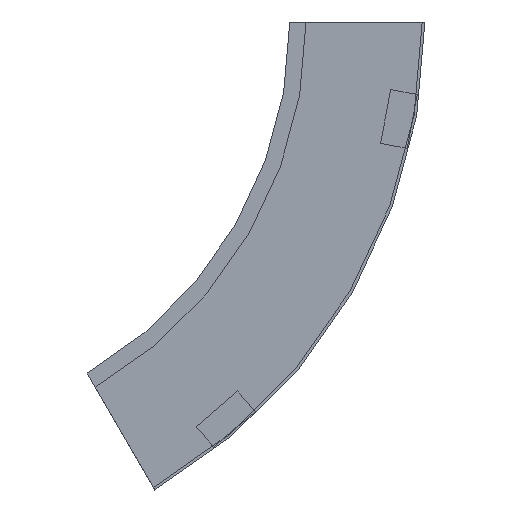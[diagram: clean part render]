
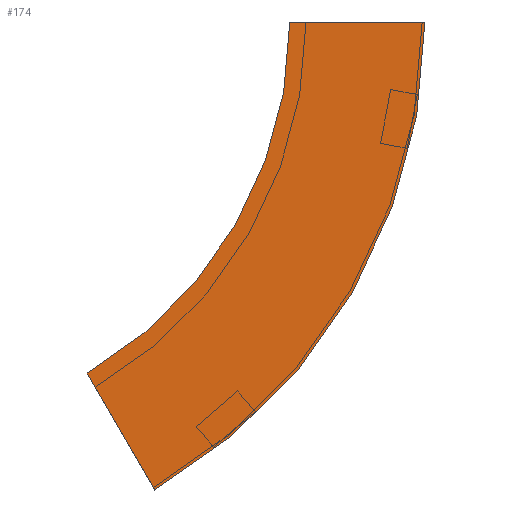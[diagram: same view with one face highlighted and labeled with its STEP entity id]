
A CAD part, left-side view. The second image highlights one B-rep face of the part: STEP entity #174.
In plain terms, the highlighted planar face has unit normal (-1, 0, 0) as drawn and (1, 0, 0) by its records, which use the part's own axes.
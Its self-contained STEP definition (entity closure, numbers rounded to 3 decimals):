
#37 = VECTOR ( 'NONE', #515, 1000. ) ;
#40 = CARTESIAN_POINT ( 'NONE',  ( 0., 0., 0. ) ) ;
#69 = CARTESIAN_POINT ( 'NONE',  ( 0., -100., 0. ) ) ;
#70 = EDGE_CURVE ( 'NONE', #130, #105, #488, .T. ) ;
#103 = VECTOR ( 'NONE', #334, 1000. ) ;
#105 = VERTEX_POINT ( 'NONE', #506 ) ;
#111 = DIRECTION ( 'NONE',  ( -1., 0., 0. ) ) ;
#122 = EDGE_CURVE ( 'NONE', #105, #301, #236, .T. ) ;
#130 = VERTEX_POINT ( 'NONE', #69 ) ;
#133 = EDGE_CURVE ( 'NONE', #130, #226, #338, .T. ) ;
#160 = CARTESIAN_POINT ( 'NONE',  ( 0., 300., 0. ) ) ;
#162 = DIRECTION ( 'NONE',  ( 0., -1., 0. ) ) ;
#164 = CARTESIAN_POINT ( 'NONE',  ( 0., 100., -346.41 ) ) ;
#174 = ADVANCED_FACE ( 'NONE', ( #558 ), #332, .F. ) ;
#202 = ORIENTED_EDGE ( 'NONE', *, *, #133, .F. ) ;
#203 = DIRECTION ( 'NONE',  ( 1., 0., 0. ) ) ;
#226 = VERTEX_POINT ( 'NONE', #40 ) ;
#236 = LINE ( 'NONE', #164, #103 ) ;
#241 = AXIS2_PLACEMENT_3D ( 'NONE', #256, #531, #443 ) ;
#256 = CARTESIAN_POINT ( 'NONE',  ( 0., 300., 0. ) ) ;
#284 = DIRECTION ( 'NONE',  ( 0., 0., 1. ) ) ;
#301 = VERTEX_POINT ( 'NONE', #364 ) ;
#307 = AXIS2_PLACEMENT_3D ( 'NONE', #160, #203, #162 ) ;
#322 = EDGE_LOOP ( 'NONE', ( #545, #202, #341, #477 ) ) ;
#332 = PLANE ( 'NONE',  #427 ) ;
#334 = DIRECTION ( 'NONE',  ( 0., 0.5, 0.866 ) ) ;
#338 = LINE ( 'NONE', #555, #37 ) ;
#341 = ORIENTED_EDGE ( 'NONE', *, *, #70, .T. ) ;
#364 = CARTESIAN_POINT ( 'NONE',  ( 0., 150., -259.808 ) ) ;
#427 = AXIS2_PLACEMENT_3D ( 'NONE', #509, #111, #284 ) ;
#443 = DIRECTION ( 'NONE',  ( 0., -1., 0. ) ) ;
#477 = ORIENTED_EDGE ( 'NONE', *, *, #122, .T. ) ;
#480 = EDGE_CURVE ( 'NONE', #226, #301, #552, .T. ) ;
#488 = CIRCLE ( 'NONE', #307, 400. ) ;
#506 = CARTESIAN_POINT ( 'NONE',  ( 0., 100., -346.41 ) ) ;
#509 = CARTESIAN_POINT ( 'NONE',  ( 0., -100., 0. ) ) ;
#515 = DIRECTION ( 'NONE',  ( 0., 1., 0. ) ) ;
#531 = DIRECTION ( 'NONE',  ( 1., 0., 0. ) ) ;
#545 = ORIENTED_EDGE ( 'NONE', *, *, #480, .F. ) ;
#552 = CIRCLE ( 'NONE', #241, 300. ) ;
#555 = CARTESIAN_POINT ( 'NONE',  ( 0., -100., 0. ) ) ;
#558 = FACE_OUTER_BOUND ( 'NONE', #322, .T. ) ;
